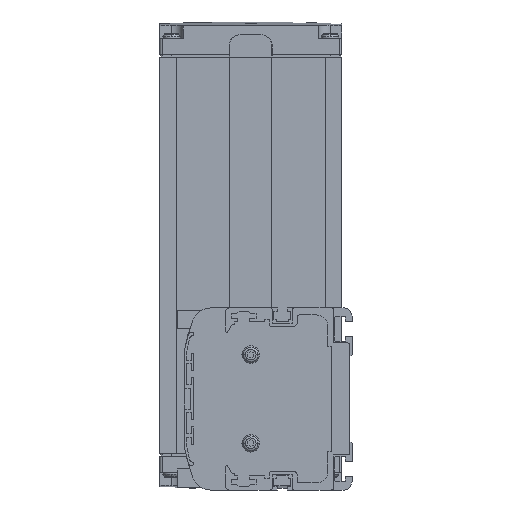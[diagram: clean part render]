
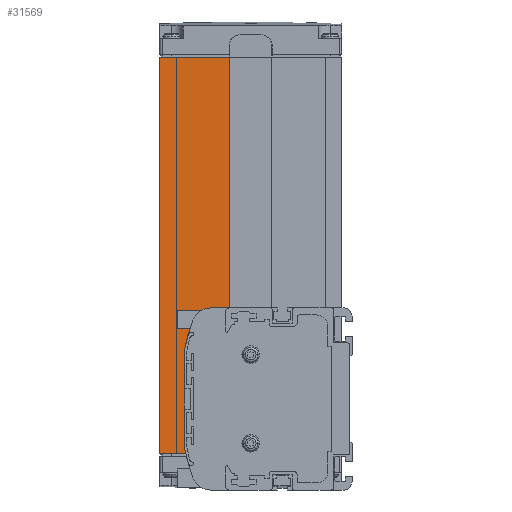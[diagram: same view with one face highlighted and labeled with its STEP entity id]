
A CAD part, left-side view. The second image highlights one B-rep face of the part: STEP entity #31569.
In plain terms, the highlighted planar face has unit normal (-1, 0, 0).
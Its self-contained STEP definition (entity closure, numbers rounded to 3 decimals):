
#7633=DIRECTION('',(0.,-1.,0.));
#7634=VECTOR('',#7633,11.203);
#7635=CARTESIAN_POINT('',(3.,82.5,-23.5));
#7636=LINE('',#7635,#7634);
#7637=DIRECTION('',(0.,0.,-1.));
#7638=VECTOR('',#7637,170.);
#7639=CARTESIAN_POINT('',(3.,82.5,146.5));
#7640=LINE('',#7639,#7638);
#7641=DIRECTION('',(0.,1.,0.));
#7642=VECTOR('',#7641,29.9);
#7643=CARTESIAN_POINT('',(3.,52.6,146.5));
#7644=LINE('',#7643,#7642);
#7645=DIRECTION('',(0.,-1.,0.));
#7646=VECTOR('',#7645,8.155);
#7647=CARTESIAN_POINT('',(3.,60.755,39.));
#7648=LINE('',#7647,#7646);
#10664=CARTESIAN_POINT('',(3.,-6.765,-6.));
#10665=DIRECTION('',(1.,0.,0.));
#10666=DIRECTION('',(0.,0.976,-0.219));
#10667=AXIS2_PLACEMENT_3D('',#10664,#10665,#10666);
#10673=CARTESIAN_POINT('',(3.,70.,-19.823));
#10674=DIRECTION('',(-1.,0.,0.));
#10675=DIRECTION('',(0.,1.,0.));
#10676=AXIS2_PLACEMENT_3D('',#10673,#10674,#10675);
#10686=DIRECTION('',(0.,0.,1.));
#10687=VECTOR('',#10686,39.645);
#10688=CARTESIAN_POINT('',(3.,72.,-19.823));
#10689=LINE('',#10688,#10687);
#10694=CARTESIAN_POINT('',(3.,70.,19.823));
#10695=DIRECTION('',(1.,0.,0.));
#10696=DIRECTION('',(0.,1.,0.));
#10697=AXIS2_PLACEMENT_3D('',#10694,#10695,#10696);
#10703=CARTESIAN_POINT('',(3.,-6.765,6.));
#10704=DIRECTION('',(1.,0.,0.));
#10705=DIRECTION('',(0.,0.984,0.177));
#10706=AXIS2_PLACEMENT_3D('',#10703,#10704,#10705);
#10708=CARTESIAN_POINT('',(3.,-6.765,6.));
#10709=DIRECTION('',(1.,0.,0.));
#10710=DIRECTION('',(0.,0.963,0.269));
#10711=AXIS2_PLACEMENT_3D('',#10708,#10709,#10710);
#10717=CARTESIAN_POINT('',(3.,60.755,31.));
#10718=DIRECTION('',(-1.,0.,0.));
#10719=DIRECTION('',(0.,0.,1.));
#10720=AXIS2_PLACEMENT_3D('',#10717,#10718,#10719);
#11111=DIRECTION('',(0.,-1.,0.));
#11112=VECTOR('',#11111,0.209);
#11113=CARTESIAN_POINT('',(3.,70.5,27.5));
#11114=LINE('',#11113,#11112);
#11135=DIRECTION('',(0.,0.,1.));
#11136=VECTOR('',#11135,0.762);
#11137=CARTESIAN_POINT('',(3.,70.5,26.738));
#11138=LINE('',#11137,#11136);
#11143=DIRECTION('',(0.,0.,1.));
#11144=VECTOR('',#11143,107.5);
#11145=CARTESIAN_POINT('',(3.,52.6,39.));
#11146=LINE('',#11145,#11144);
#17263=CARTESIAN_POINT('',(3.,82.5,-23.5));
#17265=VERTEX_POINT('',#17263);
#17360=CARTESIAN_POINT('',(3.,52.6,146.5));
#17361=VERTEX_POINT('',#17360);
#17362=CARTESIAN_POINT('',(3.,82.5,146.5));
#17363=VERTEX_POINT('',#17362);
#17396=CARTESIAN_POINT('',(3.,70.5,27.5));
#17397=VERTEX_POINT('',#17396);
#21265=CARTESIAN_POINT('',(3.,60.755,39.));
#21266=CARTESIAN_POINT('',(3.,52.6,39.));
#21267=VERTEX_POINT('',#21265);
#21268=VERTEX_POINT('',#21266);
#21269=CARTESIAN_POINT('',(3.,71.297,-23.5));
#21271=VERTEX_POINT('',#21269);
#21281=CARTESIAN_POINT('',(3.,70.5,26.738));
#21282=VERTEX_POINT('',#21281);
#21286=CARTESIAN_POINT('',(3.,70.291,27.5));
#21288=VERTEX_POINT('',#21286);
#21295=CARTESIAN_POINT('',(3.,72.,19.823));
#21296=CARTESIAN_POINT('',(3.,71.968,20.177));
#21297=VERTEX_POINT('',#21295);
#21298=VERTEX_POINT('',#21296);
#21299=CARTESIAN_POINT('',(3.,68.257,33.778));
#21300=VERTEX_POINT('',#21299);
#21313=CARTESIAN_POINT('',(3.,71.968,-20.177));
#21314=VERTEX_POINT('',#21313);
#21315=CARTESIAN_POINT('',(3.,72.,-19.823));
#21316=VERTEX_POINT('',#21315);
#31537=CARTESIAN_POINT('',(3.,67.55,61.5));
#31538=DIRECTION('',(1.,0.,0.));
#31539=DIRECTION('',(0.,-1.,0.));
#31540=AXIS2_PLACEMENT_3D('',#31537,#31538,#31539);
#31541=PLANE('',#31540);
#31543=ORIENTED_EDGE('',*,*,#31542,.F.);
#31545=ORIENTED_EDGE('',*,*,#31544,.T.);
#31547=ORIENTED_EDGE('',*,*,#31546,.F.);
#31549=ORIENTED_EDGE('',*,*,#31548,.F.);
#31551=ORIENTED_EDGE('',*,*,#31550,.F.);
#31553=ORIENTED_EDGE('',*,*,#31552,.F.);
#31555=ORIENTED_EDGE('',*,*,#31554,.F.);
#31557=ORIENTED_EDGE('',*,*,#31556,.F.);
#31559=ORIENTED_EDGE('',*,*,#31558,.T.);
#31561=ORIENTED_EDGE('',*,*,#31560,.F.);
#31562=ORIENTED_EDGE('',*,*,#26614,.F.);
#31563=ORIENTED_EDGE('',*,*,#31525,.F.);
#31564=ORIENTED_EDGE('',*,*,#29736,.F.);
#31566=ORIENTED_EDGE('',*,*,#31565,.F.);
#31567=EDGE_LOOP('',(#31543,#31545,#31547,#31549,#31551,#31553,#31555,#31557,
#31559,#31561,#31562,#31563,#31564,#31566));
#31568=FACE_OUTER_BOUND('',#31567,.F.);
#31569=ADVANCED_FACE('',(#31568),#31541,.F.);
#10668=CIRCLE('',#10667,80.);
#10677=CIRCLE('',#10676,2.);
#10698=CIRCLE('',#10697,2.);
#10707=CIRCLE('',#10706,80.);
#10712=CIRCLE('',#10711,80.);
#10721=CIRCLE('',#10720,8.);
#26614=EDGE_CURVE('',#17265,#21271,#7636,.T.);
#29736=EDGE_CURVE('',#17361,#17363,#7644,.T.);
#31525=EDGE_CURVE('',#17363,#17265,#7640,.T.);
#31542=EDGE_CURVE('',#21267,#21268,#7648,.T.);
#31544=EDGE_CURVE('',#21267,#21300,#10721,.T.);
#31546=EDGE_CURVE('',#21288,#21300,#10712,.T.);
#31548=EDGE_CURVE('',#17397,#21288,#11114,.T.);
#31550=EDGE_CURVE('',#21282,#17397,#11138,.T.);
#31552=EDGE_CURVE('',#21298,#21282,#10707,.T.);
#31554=EDGE_CURVE('',#21297,#21298,#10698,.T.);
#31556=EDGE_CURVE('',#21316,#21297,#10689,.T.);
#31558=EDGE_CURVE('',#21316,#21314,#10677,.T.);
#31560=EDGE_CURVE('',#21271,#21314,#10668,.T.);
#31565=EDGE_CURVE('',#21268,#17361,#11146,.T.);
